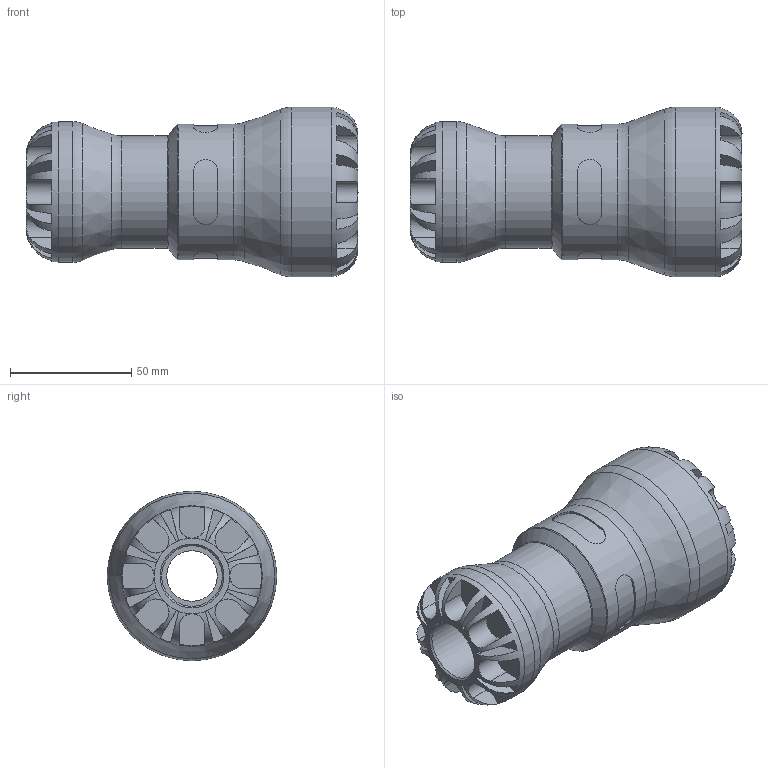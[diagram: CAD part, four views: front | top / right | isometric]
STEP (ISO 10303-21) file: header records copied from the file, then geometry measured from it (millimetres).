
FILE_DESCRIPTION(/* description */ ('PLASSON REDUCING COUPLING 40X25 SERIES 1'),/* implementation_level */ '2;1');
FILE_NAME(/* name */ 'C:\Dropbox\KIMPROJECTS-Inventor\99-16-3568-Processing\temp 27.06.19\1011\101100040025_191100040025.ipt.stp',/* time_stamp */ '2019-06-27T09:40:42+03:00',/* author */ ('KIM'),/* organization */ (''),/* preprocessor_version */ 'ST-DEVELOPER v15.6',/* originating_system */ 'Autodesk Inventor 2015',/* authorisation */ '');
FILE_SCHEMA (('AUTOMOTIVE_DESIGN { 1 0 10303 214 3 1 1 }'));
Length unit declared in the file: millimetre
Products named in the file (1): 101100040025_191100040025
Bounding box: 137 x 70 x 70 mm (x, y, z)
Volume: 221217.1 mm3; surface area: 48805.1 mm2
Topology: 1 solids, 1 shells, 172 faces, 431 edges, 266 vertices
Faces by surface type: plane 108, cylinder 50, torus 8, cone 6
Full cylindrical faces by diameter (mm): 25 x1, 40 x1, 46.4 x1, 56 x1, 58 x1, 70 x1
Entity records: 6473 total; most frequent: CARTESIAN_POINT 2379, ORIENTED_EDGE 812, DIRECTION 790, EDGE_CURVE 406, AXIS2_PLACEMENT_3D 323, VERTEX_POINT 262, EDGE_LOOP 200, STYLED_ITEM 173
